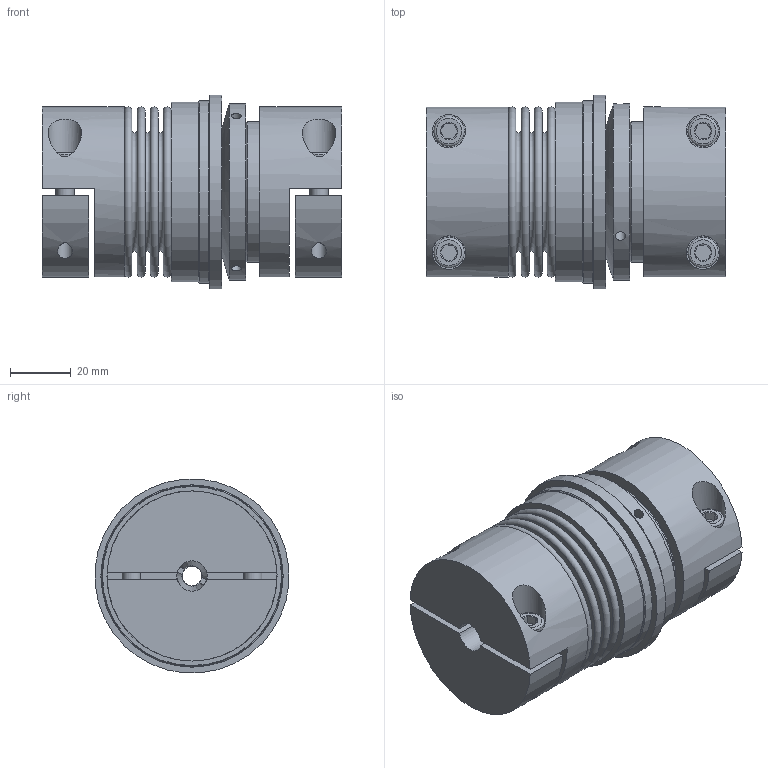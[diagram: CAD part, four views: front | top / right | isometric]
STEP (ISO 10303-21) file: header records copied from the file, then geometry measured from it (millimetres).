
FILE_DESCRIPTION( ( 'KBE1/14 - N7H8 - N14H7 - 98 Sh' ), '1' );
FILE_NAME( 'K:/Konstruktion/Fertigungszeichnungen/Überlastkupplung/KBK-B/KBK-BHH/30/KBK-BHH-30-99.stp', '14.12.2015', ( 'KBK-Antriebstechnik' ), ( 'KBK-Antriebstechnik' ), 'PSStep 16.0.42', 'Solid Edge St6', ' ' );
FILE_SCHEMA( ( 'AUTOMOTIVE_DESIGN { 1 0 10303 214 1 1 1 1 }' ) );
Length unit declared in the file: millimetre
Products named in the file (29): L-P-30 Grundkörper_0-oa1; L-P-30 Grundkörper_0-oa0; Stellring 30_0; a_25_0; KB4H8-30; KN4H-30-oa2; Spreiznabe KB8-30-oa3; inafag_61805-2rsr_cap5mpnqnhw4axxdh3oiyjea4; inafag_61805-2rsr_cap5mpnqnhw4axxdh3oiyjea4_01; inafag_61805-2rsr_cap5mpnqnhw4axxdh3oiyjea4_02; inafag_61805-2rsr_cap5mpnqnhw4axxdh3oiyjea4_03; inafag_61805-2rsr_cap5mpnqnhw4axxdh3oiyjea4_04; inafag_61805-2rsr_cap5mpnqnhw4axxdh3oiyjea4_05; inafag_61805-2rsr_cap5mpnqnhw4axxdh3oiyjea4_06; inafag_61805-2rsr_cap5mpnqnhw4axxdh3oiyjea4_07; inafag_61805-2rsr_cap5mpnqnhw4axxdh3oiyjea4_08; inafag_61805-2rsr_cap5mpnqnhw4axxdh3oiyjea4_09; Druckring 30_0; KBK-B-H-30; ISO EN DIN 4762 M6x20; Flansch BK30; Assem1; BK30_Standard_1; KN4H-30
Assembly tree (31 placements, depth 4):
  Assem1
    BK30_Standard_1
    KN4H-30
    KN4H-30
    ISO EN DIN 4762 M6x20  x2
    KBK-B-H-30
      ISO EN DIN 4762 M6x20  x2
      Flansch BK30
      L-P-30 Grundkörper_0-oa1
        L-P-30 Grundkörper_0-oa0
      Stellring 30_0
        Stellring 30_0
      Druckring 30_0
        Druckring 30_0
      a_25_0
        a_25_0
      KB4H8-30
        KN4H-30-oa2
        KN4H-30-oa2
        Spreiznabe KB8-30-oa3
      inafag_61805-2rsr_cap5mpnqnhw4axxdh3oiyjea4
        inafag_61805-2rsr_cap5mpnqnhw4axxdh3oiyjea4_01
        inafag_61805-2rsr_cap5mpnqnhw4axxdh3oiyjea4_02
        inafag_61805-2rsr_cap5mpnqnhw4axxdh3oiyjea4_03
        inafag_61805-2rsr_cap5mpnqnhw4axxdh3oiyjea4_04
        inafag_61805-2rsr_cap5mpnqnhw4axxdh3oiyjea4_05
        inafag_61805-2rsr_cap5mpnqnhw4axxdh3oiyjea4_06
        inafag_61805-2rsr_cap5mpnqnhw4axxdh3oiyjea4_07
        inafag_61805-2rsr_cap5mpnqnhw4axxdh3oiyjea4_08
        inafag_61805-2rsr_cap5mpnqnhw4axxdh3oiyjea4_09
Bounding box: 98.65 x 63.81 x 63.81 mm (x, y, z)
Volume: 186061.4 mm3; surface area: 102377.4 mm2
Topology: 24 solids, 24 shells, 315 faces, 641 edges, 408 vertices
Faces by surface type: plane 137, cylinder 100, cone 43, torus 31, sphere 4
Full cylindrical faces by diameter (mm): 2 x2, 3.242 x3, 4.2 x4, 4.917 x4, 5 x7, 6 x8, 6.4 x4, 6.5 x1, 10 x5, 11 x5, 20 x1, 23.9 x1, 25 x3, 29 x4, 29.69 x1, 30 x1, 32.91 x1, 33.6 x2, 34 x1, 34.2 x4, 37 x2, 38 x2, 39 x1, 40 x1, 45.7 x1, 46.5 x3, 46.6 x2, 47.3 x2, 52 x1, 56 x2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
Entity records: 9040 total; most frequent: CARTESIAN_POINT 2277, DIRECTION 1088, ORIENTED_EDGE 688, AXIS2_PLACEMENT_3D 497, EDGE_LOOP 440, EDGE_CURVE 344, FACE_OUTER_BOUND 332, VERTEX_POINT 306
